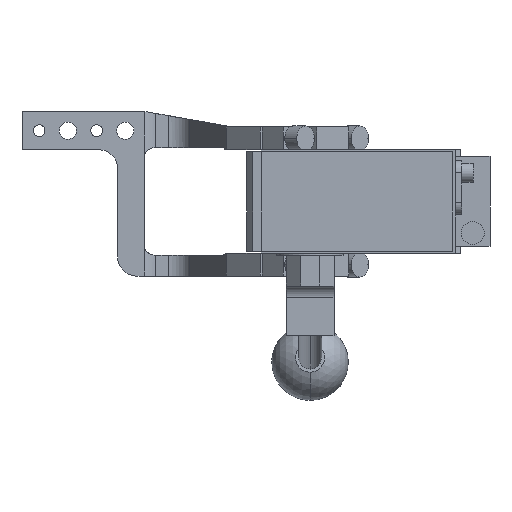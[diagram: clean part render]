
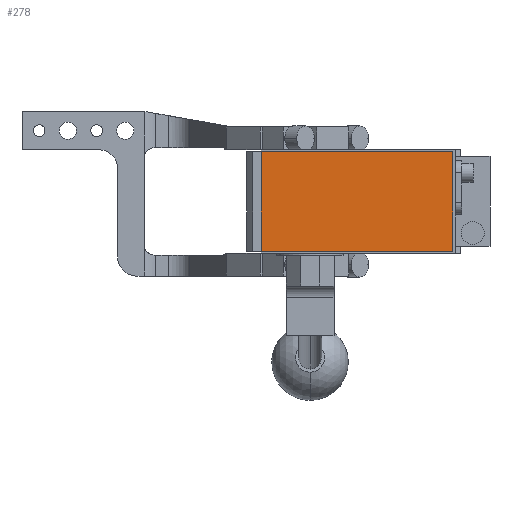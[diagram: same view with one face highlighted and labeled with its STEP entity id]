
A CAD part, front view. The second image highlights one B-rep face of the part: STEP entity #278.
In plain terms, the highlighted planar face has unit normal (0, -1, 0).
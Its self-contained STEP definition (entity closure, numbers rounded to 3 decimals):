
#278 = ADVANCED_FACE ( 'NONE', ( #13586 ), #10260, .T. ) ;
#347 = EDGE_CURVE ( 'NONE', #1419, #12295, #11234, .T. ) ;
#441 = VERTEX_POINT ( 'NONE', #13966 ) ;
#877 = EDGE_CURVE ( 'NONE', #12295, #441, #13166, .T. ) ;
#972 = VERTEX_POINT ( 'NONE', #6631 ) ;
#1419 = VERTEX_POINT ( 'NONE', #11227 ) ;
#2669 = DIRECTION ( 'NONE',  ( 0., 0., -1. ) ) ;
#3327 = DIRECTION ( 'NONE',  ( 0., -1., 0. ) ) ;
#3641 = CARTESIAN_POINT ( 'NONE',  ( -19., -286.5, -26. ) ) ;
#4836 = ORIENTED_EDGE ( 'NONE', *, *, #9182, .T. ) ;
#4936 = EDGE_LOOP ( 'NONE', ( #9786, #4836, #6936, #5823 ) ) ;
#5473 = CARTESIAN_POINT ( 'NONE',  ( -19., -286.5, 26. ) ) ;
#5707 = DIRECTION ( 'NONE',  ( -1., 0., 0. ) ) ;
#5823 = ORIENTED_EDGE ( 'NONE', *, *, #347, .T. ) ;
#6549 = AXIS2_PLACEMENT_3D ( 'NONE', #11379, #3327, #11460 ) ;
#6631 = CARTESIAN_POINT ( 'NONE',  ( 81., -286.5, -26. ) ) ;
#6936 = ORIENTED_EDGE ( 'NONE', *, *, #9505, .T. ) ;
#7273 = CARTESIAN_POINT ( 'NONE',  ( -19., -286.5, 26. ) ) ;
#7818 = VECTOR ( 'NONE', #2669, 1000. ) ;
#8706 = VECTOR ( 'NONE', #14708, 1000. ) ;
#9182 = EDGE_CURVE ( 'NONE', #441, #972, #9474, .T. ) ;
#9474 = LINE ( 'NONE', #3641, #10762 ) ;
#9505 = EDGE_CURVE ( 'NONE', #972, #1419, #13330, .T. ) ;
#9786 = ORIENTED_EDGE ( 'NONE', *, *, #877, .T. ) ;
#10020 = VECTOR ( 'NONE', #5707, 1000. ) ;
#10260 = PLANE ( 'NONE',  #6549 ) ;
#10722 = DIRECTION ( 'NONE',  ( 1., 0., 0. ) ) ;
#10762 = VECTOR ( 'NONE', #10722, 1000. ) ;
#11227 = CARTESIAN_POINT ( 'NONE',  ( 81., -286.5, 26. ) ) ;
#11234 = LINE ( 'NONE', #5473, #10020 ) ;
#11379 = CARTESIAN_POINT ( 'NONE',  ( 0., -286.5, 0. ) ) ;
#11460 = DIRECTION ( 'NONE',  ( 0., 0., -1. ) ) ;
#12295 = VERTEX_POINT ( 'NONE', #14594 ) ;
#13166 = LINE ( 'NONE', #7273, #7818 ) ;
#13330 = LINE ( 'NONE', #14784, #8706 ) ;
#13586 = FACE_OUTER_BOUND ( 'NONE', #4936, .T. ) ;
#13966 = CARTESIAN_POINT ( 'NONE',  ( -19., -286.5, -26. ) ) ;
#14594 = CARTESIAN_POINT ( 'NONE',  ( -19., -286.5, 26. ) ) ;
#14708 = DIRECTION ( 'NONE',  ( 0., 0., 1. ) ) ;
#14784 = CARTESIAN_POINT ( 'NONE',  ( 81., -286.5, 26. ) ) ;
